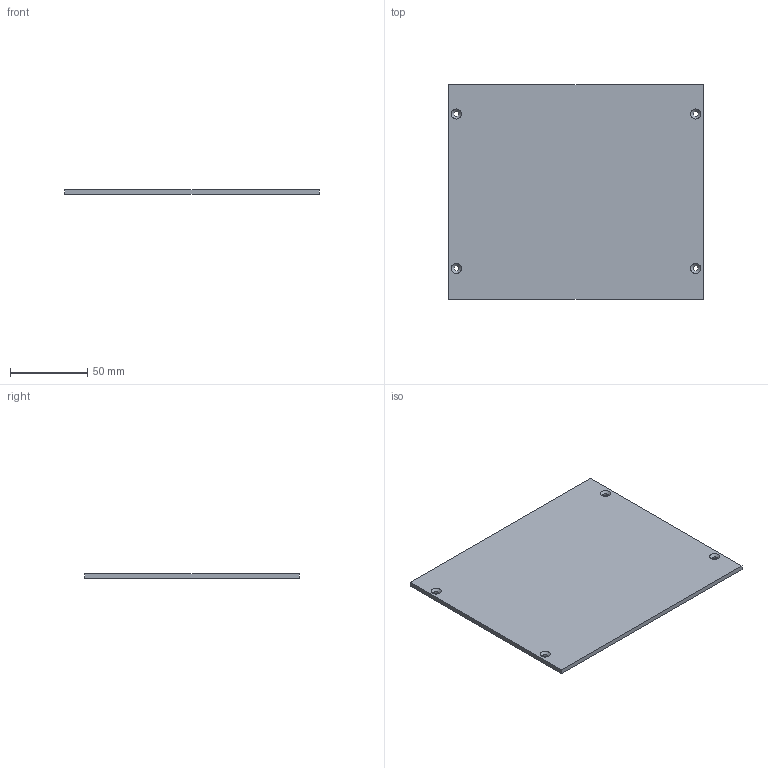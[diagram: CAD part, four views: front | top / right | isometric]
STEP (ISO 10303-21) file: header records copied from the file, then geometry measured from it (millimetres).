
FILE_DESCRIPTION(('Open CASCADE Model'),'2;1');
FILE_NAME('Open CASCADE Shape Model','2026-10-18T23:46:25',('Author'),( 'Open CASCADE'),'Open CASCADE STEP processor 7.9','Open CASCADE 7.9' ,'Unknown');
FILE_SCHEMA(('AUTOMOTIVE_DESIGN { 1 0 10303 214 1 1 1 1 }'));
Length unit declared in the file: millimetre
Products named in the file (1): Open CASCADE STEP translator 7.9 5
Bounding box: 165 x 139 x 3 mm (x, y, z)
Volume: 68629.1 mm3; surface area: 47723.3 mm2
Topology: 1 solids, 1 shells, 14 faces, 32 edges, 20 vertices
Faces by surface type: plane 6, cone 4, cylinder 4
Full cylindrical faces by diameter (mm): 3.4 x4
Entity records: 838 total; most frequent: DIRECTION 138, CARTESIAN_POINT 131, LINE 76, VECTOR 76, ORIENTED_EDGE 64, PCURVE 64, DEFINITIONAL_REPRESENTATION 64, EDGE_CURVE 32
